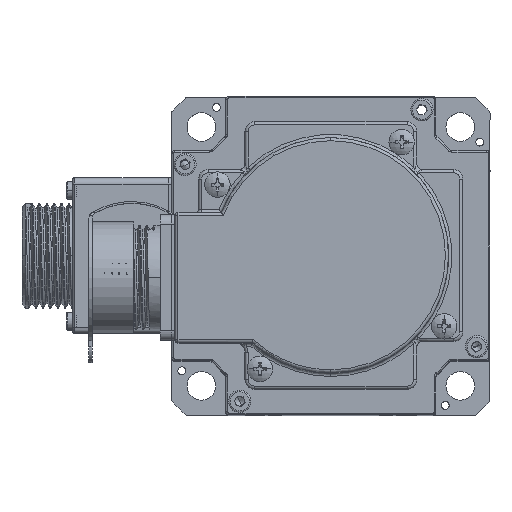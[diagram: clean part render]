
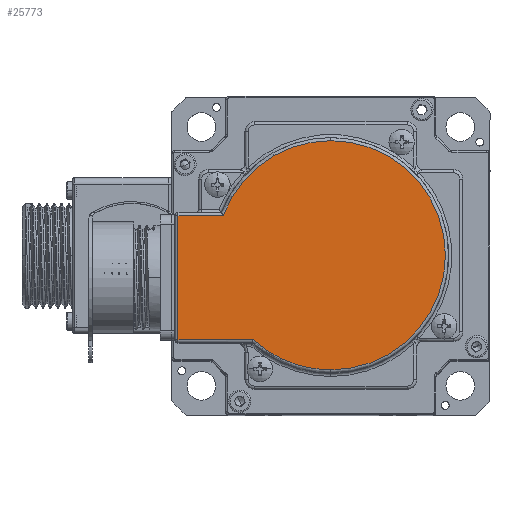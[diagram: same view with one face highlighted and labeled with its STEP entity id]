
A CAD part, top view. The second image highlights one B-rep face of the part: STEP entity #25773.
In plain terms, the highlighted planar face has unit normal (0, 0, 1).
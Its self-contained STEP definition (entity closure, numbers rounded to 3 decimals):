
#545 = VERTEX_POINT ( 'NONE', #18664 ) ;
#842 = CARTESIAN_POINT ( 'NONE',  ( -9.065, 48.699, 49.75 ) ) ;
#922 = ORIENTED_EDGE ( 'NONE', *, *, #26895, .T. ) ;
#1029 = CARTESIAN_POINT ( 'NONE',  ( -33.432, -13.801, 49.75 ) ) ;
#2924 = ORIENTED_EDGE ( 'NONE', *, *, #3622, .T. ) ;
#2948 = VERTEX_POINT ( 'NONE', #20561 ) ;
#3622 = EDGE_CURVE ( 'NONE', #2948, #26284, #17015, .T. ) ;
#4344 = PLANE ( 'NONE',  #23878 ) ;
#4919 = CARTESIAN_POINT ( 'NONE',  ( -9.065, 12.699, 49.75 ) ) ;
#5773 = CARTESIAN_POINT ( 'NONE',  ( -57.065, -14.801, 49.75 ) ) ;
#6376 = DIRECTION ( 'NONE',  ( 0., 0., 1. ) ) ;
#7120 = AXIS2_PLACEMENT_3D ( 'NONE', #21579, #16785, #11450 ) ;
#11450 = DIRECTION ( 'NONE',  ( 0., 1., 0. ) ) ;
#12300 = DIRECTION ( 'NONE',  ( 0., 1., 0. ) ) ;
#14222 = EDGE_CURVE ( 'NONE', #16804, #545, #23081, .T. ) ;
#14798 = DIRECTION ( 'NONE',  ( 0., 1., 0. ) ) ;
#15299 = LINE ( 'NONE', #34611, #17803 ) ;
#15705 = CARTESIAN_POINT ( 'NONE',  ( -42.825, 25.199, 49.75 ) ) ;
#16785 = DIRECTION ( 'NONE',  ( 0., 0., 1. ) ) ;
#16804 = VERTEX_POINT ( 'NONE', #15705 ) ;
#17015 = CIRCLE ( 'NONE', #7120, 36. ) ;
#17101 = AXIS2_PLACEMENT_3D ( 'NONE', #4919, #28919, #26098 ) ;
#17803 = VECTOR ( 'NONE', #31420, 1000. ) ;
#18663 = EDGE_CURVE ( 'NONE', #31206, #33446, #15299, .T. ) ;
#18664 = CARTESIAN_POINT ( 'NONE',  ( -57.065, 25.199, 49.75 ) ) ;
#19204 = DIRECTION ( 'NONE',  ( 0., -1., 0. ) ) ;
#19595 = AXIS2_PLACEMENT_3D ( 'NONE', #27821, #6376, #14798 ) ;
#20195 = CARTESIAN_POINT ( 'NONE',  ( -9.065, 12.699, 49.75 ) ) ;
#20561 = CARTESIAN_POINT ( 'NONE',  ( -9.065, -23.301, 49.75 ) ) ;
#21579 = CARTESIAN_POINT ( 'NONE',  ( -9.065, 12.699, 49.75 ) ) ;
#21736 = DIRECTION ( 'NONE',  ( -1., 0., 0. ) ) ;
#22908 = CARTESIAN_POINT ( 'NONE',  ( -57.065, -13.801, 49.75 ) ) ;
#23081 = LINE ( 'NONE', #29101, #34419 ) ;
#23878 = AXIS2_PLACEMENT_3D ( 'NONE', #20195, #33590, #12300 ) ;
#24472 = ORIENTED_EDGE ( 'NONE', *, *, #18663, .T. ) ;
#24514 = ORIENTED_EDGE ( 'NONE', *, *, #32012, .T. ) ;
#25773 = ADVANCED_FACE ( 'NONE', ( #31733 ), #4344, .T. ) ;
#26098 = DIRECTION ( 'NONE',  ( 0., 1., 0. ) ) ;
#26284 = VERTEX_POINT ( 'NONE', #842 ) ;
#26895 = EDGE_CURVE ( 'NONE', #33446, #2948, #34540, .T. ) ;
#27045 = LINE ( 'NONE', #5773, #28737 ) ;
#27571 = CIRCLE ( 'NONE', #17101, 36. ) ;
#27821 = CARTESIAN_POINT ( 'NONE',  ( -9.065, 12.699, 49.75 ) ) ;
#28737 = VECTOR ( 'NONE', #19204, 1000. ) ;
#28919 = DIRECTION ( 'NONE',  ( 0., 0., 1. ) ) ;
#29101 = CARTESIAN_POINT ( 'NONE',  ( -58.065, 25.199, 49.75 ) ) ;
#29268 = EDGE_CURVE ( 'NONE', #26284, #16804, #27571, .T. ) ;
#29987 = EDGE_LOOP ( 'NONE', ( #31228, #24514, #24472, #922, #2924, #34085 ) ) ;
#31206 = VERTEX_POINT ( 'NONE', #22908 ) ;
#31228 = ORIENTED_EDGE ( 'NONE', *, *, #14222, .T. ) ;
#31420 = DIRECTION ( 'NONE',  ( 1., 0., 0. ) ) ;
#31733 = FACE_OUTER_BOUND ( 'NONE', #29987, .T. ) ;
#32012 = EDGE_CURVE ( 'NONE', #545, #31206, #27045, .T. ) ;
#33446 = VERTEX_POINT ( 'NONE', #1029 ) ;
#33590 = DIRECTION ( 'NONE',  ( 0., 0., 1. ) ) ;
#34085 = ORIENTED_EDGE ( 'NONE', *, *, #29268, .T. ) ;
#34419 = VECTOR ( 'NONE', #21736, 1000. ) ;
#34540 = CIRCLE ( 'NONE', #19595, 36. ) ;
#34611 = CARTESIAN_POINT ( 'NONE',  ( -33.819, -13.801, 49.75 ) ) ;
